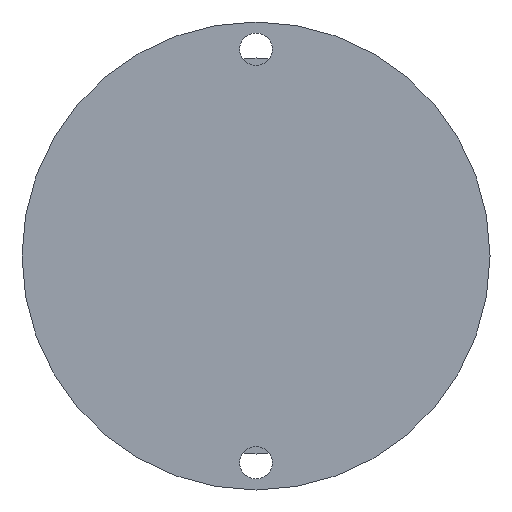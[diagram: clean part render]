
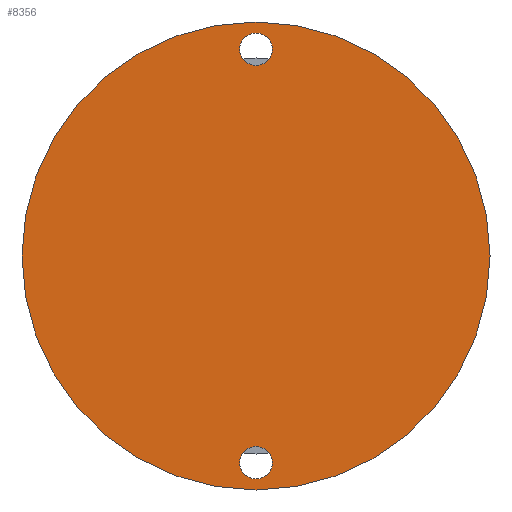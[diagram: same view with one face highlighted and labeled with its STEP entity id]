
A CAD part, front view. The second image highlights one B-rep face of the part: STEP entity #8356.
In plain terms, the highlighted planar face has unit normal (0, -1, 0).
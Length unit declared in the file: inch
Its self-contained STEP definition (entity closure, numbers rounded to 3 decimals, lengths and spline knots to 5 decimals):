
#599 = CIRCLE ( 'NONE', #12401, 0.0565 ) ;
#636 = DIRECTION ( 'NONE',  ( 0., -1., 0. ) ) ;
#779 = VERTEX_POINT ( 'NONE', #794 ) ;
#794 = CARTESIAN_POINT ( 'NONE',  ( 0., 0., 0.661 ) ) ;
#814 = EDGE_CURVE ( 'NONE', #1126, #6821, #10107, .T. ) ;
#1126 = VERTEX_POINT ( 'NONE', #9170 ) ;
#1467 = CARTESIAN_POINT ( 'NONE',  ( 0., 0., 0.774 ) ) ;
#1511 = PLANE ( 'NONE',  #8436 ) ;
#1568 = DIRECTION ( 'NONE',  ( 0., -1., 0. ) ) ;
#1591 = DIRECTION ( 'NONE',  ( 0., 0., -1. ) ) ;
#1596 = ORIENTED_EDGE ( 'NONE', *, *, #11980, .F. ) ;
#2150 = EDGE_CURVE ( 'NONE', #6821, #1126, #8448, .T. ) ;
#2326 = CARTESIAN_POINT ( 'NONE',  ( 0., 0., 0. ) ) ;
#2356 = DIRECTION ( 'NONE',  ( 0., 1., 0. ) ) ;
#2530 = VERTEX_POINT ( 'NONE', #3411 ) ;
#2704 = AXIS2_PLACEMENT_3D ( 'NONE', #3685, #636, #2725 ) ;
#2725 = DIRECTION ( 'NONE',  ( 0., 0., 1. ) ) ;
#2857 = CARTESIAN_POINT ( 'NONE',  ( 0., 0., -0.7175 ) ) ;
#3379 = ORIENTED_EDGE ( 'NONE', *, *, #814, .F. ) ;
#3411 = CARTESIAN_POINT ( 'NONE',  ( 0., 0., 0.81225 ) ) ;
#3654 = CARTESIAN_POINT ( 'NONE',  ( 0., 0., 0. ) ) ;
#3685 = CARTESIAN_POINT ( 'NONE',  ( 0., 0., 0.7175 ) ) ;
#5126 = CARTESIAN_POINT ( 'NONE',  ( 0., 0., -0.81225 ) ) ;
#5142 = DIRECTION ( 'NONE',  ( 0., -1., 0. ) ) ;
#5197 = FACE_BOUND ( 'NONE', #10377, .T. ) ;
#5371 = DIRECTION ( 'NONE',  ( 0., 0., -1. ) ) ;
#5489 = EDGE_CURVE ( 'NONE', #6990, #779, #7666, .T. ) ;
#5536 = CIRCLE ( 'NONE', #9856, 0.81225 ) ;
#5841 = DIRECTION ( 'NONE',  ( 0., 0., 1. ) ) ;
#5843 = AXIS2_PLACEMENT_3D ( 'NONE', #2326, #12100, #5371 ) ;
#6196 = ORIENTED_EDGE ( 'NONE', *, *, #5489, .F. ) ;
#6364 = DIRECTION ( 'NONE',  ( 0., 0., 1. ) ) ;
#6821 = VERTEX_POINT ( 'NONE', #11509 ) ;
#6990 = VERTEX_POINT ( 'NONE', #1467 ) ;
#7269 = FACE_BOUND ( 'NONE', #7836, .T. ) ;
#7388 = CARTESIAN_POINT ( 'NONE',  ( 0., 0., -0.7175 ) ) ;
#7666 = CIRCLE ( 'NONE', #2704, 0.0565 ) ;
#7723 = DIRECTION ( 'NONE',  ( 0., -1., 0. ) ) ;
#7836 = EDGE_LOOP ( 'NONE', ( #6196, #8917 ) ) ;
#7903 = CIRCLE ( 'NONE', #5843, 0.81225 ) ;
#7984 = CARTESIAN_POINT ( 'NONE',  ( 0., 0., 0.7175 ) ) ;
#8129 = DIRECTION ( 'NONE',  ( 0., 0., 1. ) ) ;
#8159 = EDGE_CURVE ( 'NONE', #10647, #2530, #5536, .T. ) ;
#8356 = ADVANCED_FACE ( 'NONE', ( #9143, #5197, #7269 ), #1511, .F. ) ;
#8436 = AXIS2_PLACEMENT_3D ( 'NONE', #11100, #2356, #6364 ) ;
#8448 = CIRCLE ( 'NONE', #9871, 0.0565 ) ;
#8845 = AXIS2_PLACEMENT_3D ( 'NONE', #2857, #7723, #5841 ) ;
#8917 = ORIENTED_EDGE ( 'NONE', *, *, #10410, .F. ) ;
#9143 = FACE_OUTER_BOUND ( 'NONE', #11836, .T. ) ;
#9170 = CARTESIAN_POINT ( 'NONE',  ( 0., 0., -0.661 ) ) ;
#9194 = ORIENTED_EDGE ( 'NONE', *, *, #8159, .F. ) ;
#9255 = ORIENTED_EDGE ( 'NONE', *, *, #2150, .F. ) ;
#9443 = DIRECTION ( 'NONE',  ( 0., 0., 1. ) ) ;
#9727 = DIRECTION ( 'NONE',  ( 0., 1., 0. ) ) ;
#9856 = AXIS2_PLACEMENT_3D ( 'NONE', #3654, #9727, #1591 ) ;
#9871 = AXIS2_PLACEMENT_3D ( 'NONE', #7388, #1568, #9443 ) ;
#10107 = CIRCLE ( 'NONE', #8845, 0.0565 ) ;
#10377 = EDGE_LOOP ( 'NONE', ( #3379, #9255 ) ) ;
#10410 = EDGE_CURVE ( 'NONE', #779, #6990, #599, .T. ) ;
#10647 = VERTEX_POINT ( 'NONE', #5126 ) ;
#11100 = CARTESIAN_POINT ( 'NONE',  ( 0., 0., 0. ) ) ;
#11509 = CARTESIAN_POINT ( 'NONE',  ( 0., 0., -0.774 ) ) ;
#11836 = EDGE_LOOP ( 'NONE', ( #9194, #1596 ) ) ;
#11980 = EDGE_CURVE ( 'NONE', #2530, #10647, #7903, .T. ) ;
#12100 = DIRECTION ( 'NONE',  ( 0., 1., 0. ) ) ;
#12401 = AXIS2_PLACEMENT_3D ( 'NONE', #7984, #5142, #8129 ) ;
